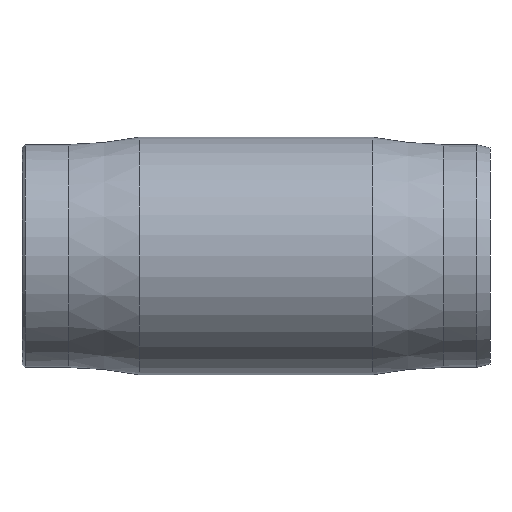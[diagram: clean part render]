
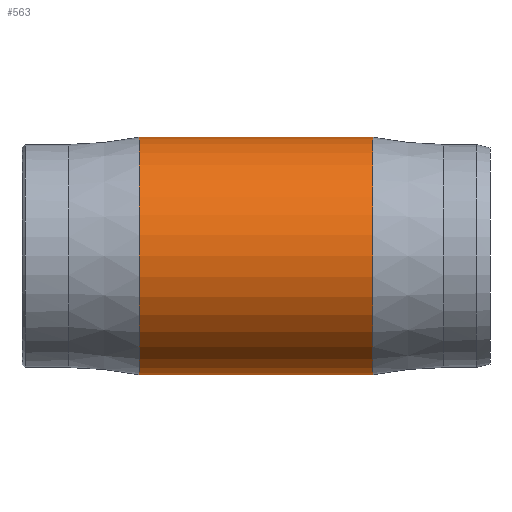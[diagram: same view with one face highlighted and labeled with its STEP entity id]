
A CAD part, front view. The second image highlights one B-rep face of the part: STEP entity #563.
In plain terms, the highlighted cylindrical face has radius 18.034 mm (diameter 36.068 mm), a full revolution.
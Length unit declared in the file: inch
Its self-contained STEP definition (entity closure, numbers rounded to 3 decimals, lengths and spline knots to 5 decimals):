
#60=LINE('',#1108,#77);
#77=VECTOR('',#816,0.71);
#89=CYLINDRICAL_SURFACE('',#654,0.71);
#118=FACE_OUTER_BOUND('',#158,.T.);
#158=EDGE_LOOP('',(#468,#469,#470,#471,#472,#473,#474,#475));
#183=CIRCLE('',#616,0.71);
#184=CIRCLE('',#619,0.71);
#185=CIRCLE('',#621,0.71);
#186=CIRCLE('',#622,0.71);
#210=CIRCLE('',#655,0.71);
#211=CIRCLE('',#656,0.71);
#239=VERTEX_POINT('',#937);
#240=VERTEX_POINT('',#950);
#245=VERTEX_POINT('',#999);
#246=VERTEX_POINT('',#1008);
#248=VERTEX_POINT('',#1046);
#269=VERTEX_POINT('',#1106);
#305=EDGE_CURVE('',#239,#240,#183,.T.);
#313=EDGE_CURVE('',#246,#245,#184,.T.);
#314=EDGE_CURVE('',#248,#246,#185,.T.);
#315=EDGE_CURVE('',#245,#248,#186,.T.);
#344=EDGE_CURVE('',#269,#239,#210,.T.);
#345=EDGE_CURVE('',#269,#248,#60,.T.);
#346=EDGE_CURVE('',#240,#269,#211,.T.);
#468=ORIENTED_EDGE('',*,*,#305,.F.);
#469=ORIENTED_EDGE('',*,*,#344,.F.);
#470=ORIENTED_EDGE('',*,*,#345,.T.);
#471=ORIENTED_EDGE('',*,*,#314,.T.);
#472=ORIENTED_EDGE('',*,*,#313,.T.);
#473=ORIENTED_EDGE('',*,*,#315,.T.);
#474=ORIENTED_EDGE('',*,*,#345,.F.);
#475=ORIENTED_EDGE('',*,*,#346,.F.);
#563=ADVANCED_FACE('',(#118),#89,.T.);
#616=AXIS2_PLACEMENT_3D('',#978,#730,#731);
#619=AXIS2_PLACEMENT_3D('',#1044,#737,#738);
#621=AXIS2_PLACEMENT_3D('',#1047,#741,#742);
#622=AXIS2_PLACEMENT_3D('',#1048,#743,#744);
#654=AXIS2_PLACEMENT_3D('',#1105,#812,#813);
#655=AXIS2_PLACEMENT_3D('',#1107,#814,#815);
#656=AXIS2_PLACEMENT_3D('',#1109,#817,#818);
#730=DIRECTION('center_axis',(1.,0.,0.));
#731=DIRECTION('ref_axis',(0.,0.,-1.));
#737=DIRECTION('center_axis',(1.,0.,0.));
#738=DIRECTION('ref_axis',(0.,0.,-1.));
#741=DIRECTION('center_axis',(1.,0.,0.));
#742=DIRECTION('ref_axis',(0.,0.,-1.));
#743=DIRECTION('center_axis',(1.,0.,0.));
#744=DIRECTION('ref_axis',(0.,0.,-1.));
#812=DIRECTION('center_axis',(1.,0.,0.));
#813=DIRECTION('ref_axis',(0.,1.,0.));
#814=DIRECTION('center_axis',(1.,0.,0.));
#815=DIRECTION('ref_axis',(0.,0.,-1.));
#816=DIRECTION('',(-1.,0.,0.));
#817=DIRECTION('center_axis',(1.,0.,0.));
#818=DIRECTION('ref_axis',(0.,0.,-1.));
#937=CARTESIAN_POINT('',(0.7,0.66812,-0.24023));
#950=CARTESIAN_POINT('',(0.7,0.66812,0.24023));
#978=CARTESIAN_POINT('Origin',(0.7,0.,0.));
#999=CARTESIAN_POINT('',(-0.7,0.66812,0.24023));
#1008=CARTESIAN_POINT('',(-0.7,0.66812,-0.24023));
#1044=CARTESIAN_POINT('Origin',(-0.7,0.,0.));
#1046=CARTESIAN_POINT('',(-0.7,-0.71,0.));
#1047=CARTESIAN_POINT('Origin',(-0.7,0.,0.));
#1048=CARTESIAN_POINT('Origin',(-0.7,0.,0.));
#1105=CARTESIAN_POINT('Origin',(0.,0.,0.));
#1106=CARTESIAN_POINT('',(0.7,-0.71,0.));
#1107=CARTESIAN_POINT('Origin',(0.7,0.,0.));
#1108=CARTESIAN_POINT('',(0.,-0.71,0.));
#1109=CARTESIAN_POINT('Origin',(0.7,0.,0.));
